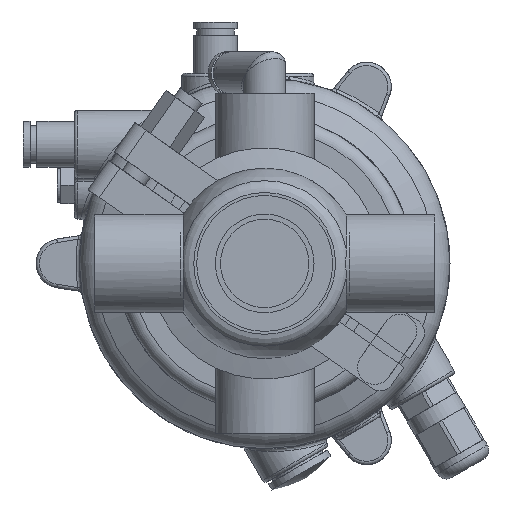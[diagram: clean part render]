
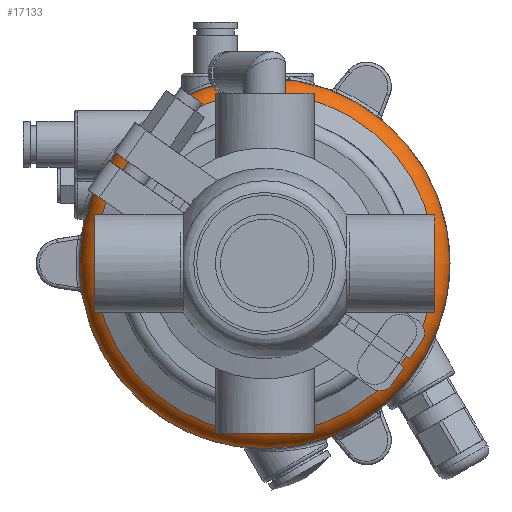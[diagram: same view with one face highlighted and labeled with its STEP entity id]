
A CAD part, front view. The second image highlights one B-rep face of the part: STEP entity #17133.
In plain terms, the highlighted toroidal (fillet/blend) face has major radius 46.5 mm and minor radius 8 mm.
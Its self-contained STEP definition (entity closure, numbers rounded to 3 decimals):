
#2600 = EDGE_CURVE ( 'NONE', #6796, #6796, #46515, .T. ) ;
#3586 = CARTESIAN_POINT ( 'NONE',  ( 0., 14.022, 0. ) ) ;
#3863 = DIRECTION ( 'NONE',  ( 0., 0., -1. ) ) ;
#6796 = VERTEX_POINT ( 'NONE', #15705 ) ;
#12476 = DIRECTION ( 'NONE',  ( 0., -1., 0. ) ) ;
#12686 = AXIS2_PLACEMENT_3D ( 'NONE', #34964, #20902, #32970 ) ;
#13457 = CARTESIAN_POINT ( 'NONE',  ( 0., 6.832, -50.007 ) ) ;
#15705 = CARTESIAN_POINT ( 'NONE',  ( 0., 14.022, -54.5 ) ) ;
#16275 = FACE_OUTER_BOUND ( 'NONE', #39380, .T. ) ;
#17133 = ADVANCED_FACE ( 'NONE', ( #56519, #16275 ), #22525, .T. ) ;
#20902 = DIRECTION ( 'NONE',  ( 0., -1., 0. ) ) ;
#22525 = TOROIDAL_SURFACE ( 'NONE', #12686, 46.5, 8. ) ;
#26088 = EDGE_CURVE ( 'NONE', #41378, #41378, #48215, .T. ) ;
#32970 = DIRECTION ( 'NONE',  ( 0., 0., -1. ) ) ;
#34964 = CARTESIAN_POINT ( 'NONE',  ( 0., 14.022, 0. ) ) ;
#37430 = AXIS2_PLACEMENT_3D ( 'NONE', #60243, #45836, #3863 ) ;
#38740 = AXIS2_PLACEMENT_3D ( 'NONE', #3586, #12476, #50171 ) ;
#39380 = EDGE_LOOP ( 'NONE', ( #40730 ) ) ;
#40730 = ORIENTED_EDGE ( 'NONE', *, *, #26088, .F. ) ;
#41378 = VERTEX_POINT ( 'NONE', #13457 ) ;
#45836 = DIRECTION ( 'NONE',  ( 0., -1., 0. ) ) ;
#46421 = EDGE_LOOP ( 'NONE', ( #53398 ) ) ;
#46515 = CIRCLE ( 'NONE', #38740, 54.5 ) ;
#48215 = CIRCLE ( 'NONE', #37430, 50.007 ) ;
#50171 = DIRECTION ( 'NONE',  ( 0., 0., -1. ) ) ;
#53398 = ORIENTED_EDGE ( 'NONE', *, *, #2600, .T. ) ;
#56519 = FACE_OUTER_BOUND ( 'NONE', #46421, .T. ) ;
#60243 = CARTESIAN_POINT ( 'NONE',  ( 0., 6.832, 0. ) ) ;
